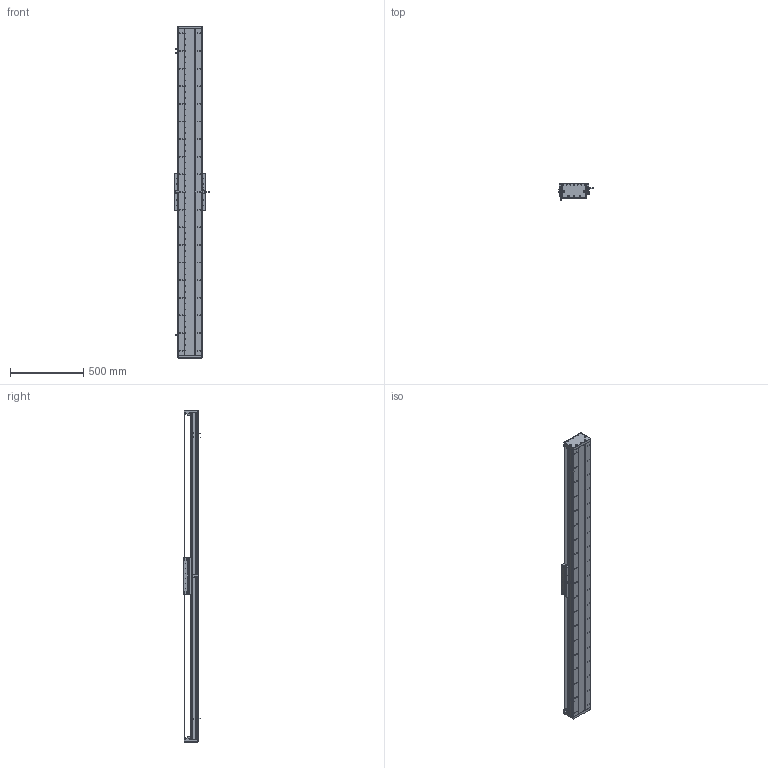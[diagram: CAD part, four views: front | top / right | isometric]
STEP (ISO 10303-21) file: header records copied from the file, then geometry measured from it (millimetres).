
FILE_DESCRIPTION (( 'STEP AP203' ), '1' );
FILE_NAME ('DA-C165-C3-T1920-C010-0.2 直线电机.STEP', '2023-06-13T08:50:00', ( '微软用户' ), ( '微软中国' ), 'SwSTEP 2.0', 'SolidWorks 2019', '' );
FILE_SCHEMA (( 'CONFIG_CONTROL_DESIGN' ));
Length unit declared in the file: millimetre
Products named in the file (18): 复件 XD-U-02L 磁栅尺^DA-C165-C3-T-C010-0.2-N 直线电机_T; 复件 DA165-GD-1860-002-00 钢带盖板^复件 CU165钢带组件_DA-C165-C3-T-C010-0.2-N 直线电机; 复件 CU165钢带组件^DA-C165-C3-T-C010-0.2-N 直线电机; 复件 DA165-GD-DG-H-00 端盖^复件 CU165钢带组件_DA-C165-C3-T-C010-0.2-N 直线电机; 葩璃 PM-T45^DA-C165-C3-T-C010-0.2-N 眻盄萇儂; 复件 DA165-GDLK-00 钢带拉块^复件 CU165钢带组件_DA-C165-C3-T-C010-0.2-N 直线电机; 复件 DA165-GYP-00 光电感应片^DA-C165-C3-T-C010-0.2-N 直线电机; 珨极趙賑雄怢啣C3-wf; 葩璃 DA95-GT-T-00^IU-CU165-L 菁釱絳寢_T; 复件 CU165 底座^IU-CU165-L 底座导轨_L2220; 复件 DMA-010-0.2 读数头^DA-C165-C3-T-C010-0.2-N 直线电机; DA-C165-C3-T1920-C010-0.2 眻盄萇儂; 葩璃 CKM01-W075-TRL^DA-C165-C3-T-C010-0.2-N 眻盄萇儂; 复件 DA95-HXJ-00 缓冲橡胶^DA-C165-C3-T-C010-0.2-N 直线电机; IU-CU165-L 菁釱絳寢; 复件 六角薄螺母 M3^DA-C165-C3-T-C010-0.2-N 直线电机_GB_FASTENER_NUT_STNAB M3-C; 复件 DA165-GDYK-00 钢带压块^复件 CU165钢带组件_DA-C165-C3-T-C010-0.2-N 直线电机; 葩璃 CKM03-W075-C1C2-TP-3.0^DA-C165-C3-T-C010-0.2-N 眻盄萇儂
Assembly tree (35 placements, depth 3):
  DA-C165-C3-T1920-C010-0.2 眻盄萇儂
    IU-CU165-L 菁釱絳寢
      复件 CU165 底座^IU-CU165-L 底座导轨_L2220
      葩璃 DA95-GT-T-00^IU-CU165-L 菁釱絳寢_T  x4
    复件 XD-U-02L 磁栅尺^DA-C165-C3-T-C010-0.2-N 直线电机_T
    葩璃 PM-T45^DA-C165-C3-T-C010-0.2-N 眻盄萇儂  x3
    葩璃 CKM01-W075-TRL^DA-C165-C3-T-C010-0.2-N 眻盄萇儂
    复件 CU165钢带组件^DA-C165-C3-T-C010-0.2-N 直线电机
      复件 DA165-GD-DG-H-00 端盖^复件 CU165钢带组件_DA-C165-C3-T-C010-0.2-N 直线电机  x2
      复件 DA165-GDYK-00 钢带压块^复件 CU165钢带组件_DA-C165-C3-T-C010-0.2-N 直线电机  x2
      复件 DA165-GD-1860-002-00 钢带盖板^复件 CU165钢带组件_DA-C165-C3-T-C010-0.2-N 直线电机
      复件 DA165-GDLK-00 钢带拉块^复件 CU165钢带组件_DA-C165-C3-T-C010-0.2-N 直线电机  x2
    复件 DA95-HXJ-00 缓冲橡胶^DA-C165-C3-T-C010-0.2-N 直线电机  x4
    复件 DA165-GYP-00 光电感应片^DA-C165-C3-T-C010-0.2-N 直线电机
    复件 DMA-010-0.2 读数头^DA-C165-C3-T-C010-0.2-N 直线电机
    葩璃 CKM03-W075-C1C2-TP-3.0^DA-C165-C3-T-C010-0.2-N 眻盄萇儂
    复件 六角薄螺母 M3^DA-C165-C3-T-C010-0.2-N 直线电机_GB_FASTENER_NUT_STNAB M3-C  x8
    珨极趙賑雄怢啣C3-wf
Bounding box: 233 x 111.45 x 2260 mm (x, y, z)
Volume: 13383488.4 mm3; surface area: 3918247.4 mm2
Topology: 72 solids, 122 shells, 4182 faces, 11809 edges, 7434 vertices
Faces by surface type: cylinder 2352, plane 1204, cone 576, torus 46, sphere 4
Entity records: 134761 total; most frequent: CARTESIAN_POINT 35653, ORIENTED_EDGE 20370, DIRECTION 20153, EDGE_CURVE 10185, AXIS2_PLACEMENT_3D 7726, VERTEX_POINT 6622, EDGE_LOOP 4773, VECTOR 4701
